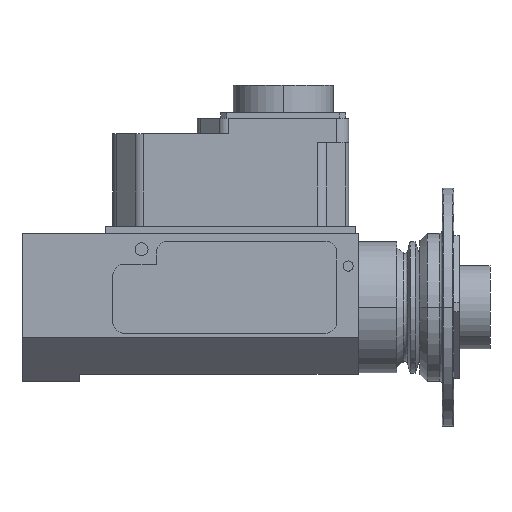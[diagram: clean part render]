
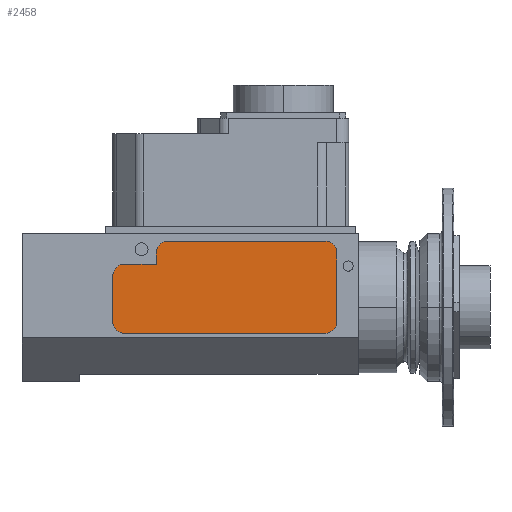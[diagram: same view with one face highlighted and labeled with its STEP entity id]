
A CAD part, left-side view. The second image highlights one B-rep face of the part: STEP entity #2458.
In plain terms, the highlighted planar face has unit normal (-1, 0, 0).
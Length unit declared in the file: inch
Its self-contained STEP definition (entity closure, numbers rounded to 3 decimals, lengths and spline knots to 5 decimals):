
#90 = DIRECTION ( 'NONE',  ( -1., 0., 0. ) ) ;
#171 = CARTESIAN_POINT ( 'NONE',  ( -0.765, 3.5765, 0.327 ) ) ;
#178 = CARTESIAN_POINT ( 'NONE',  ( -0.765, 3.1175, 0.57 ) ) ;
#217 = DIRECTION ( 'NONE',  ( 0., 1., 0. ) ) ;
#391 = VERTEX_POINT ( 'NONE', #1857 ) ;
#617 = CARTESIAN_POINT ( 'NONE',  ( -0.765, 3.1175, 0.57 ) ) ;
#627 = DIRECTION ( 'NONE',  ( 0., 0., 1. ) ) ;
#706 = EDGE_CURVE ( 'NONE', #7108, #4010, #2153, .T. ) ;
#718 = CARTESIAN_POINT ( 'NONE',  ( -0.765, 3.1175, 0.452 ) ) ;
#817 = VERTEX_POINT ( 'NONE', #171 ) ;
#898 = CIRCLE ( 'NONE', #3026, 0.125 ) ;
#939 = DIRECTION ( 'NONE',  ( 0., 1., 0. ) ) ;
#954 = DIRECTION ( 'NONE',  ( -1., 0., 0. ) ) ;
#967 = EDGE_CURVE ( 'NONE', #4280, #3059, #2065, .T. ) ;
#1066 = DIRECTION ( 'NONE',  ( 0., 1., 0. ) ) ;
#1072 = CARTESIAN_POINT ( 'NONE',  ( -0.765, 1.3505, 0.695 ) ) ;
#1194 = DIRECTION ( 'NONE',  ( 0., 1., 0. ) ) ;
#1291 = CARTESIAN_POINT ( 'NONE',  ( -0.765, 3.4515, -0.146 ) ) ;
#1433 = ORIENTED_EDGE ( 'NONE', *, *, #7035, .T. ) ;
#1449 = DIRECTION ( 'NONE',  ( 0., -1., 0. ) ) ;
#1526 = AXIS2_PLACEMENT_3D ( 'NONE', #1291, #4009, #217 ) ;
#1704 = CARTESIAN_POINT ( 'NONE',  ( -0.765, 2.9925, 0.57 ) ) ;
#1753 = DIRECTION ( 'NONE',  ( 0., 1., 0. ) ) ;
#1772 = AXIS2_PLACEMENT_3D ( 'NONE', #2099, #954, #4273 ) ;
#1857 = CARTESIAN_POINT ( 'NONE',  ( -0.765, 1.2255, -0.146 ) ) ;
#2004 = ORIENTED_EDGE ( 'NONE', *, *, #6833, .T. ) ;
#2065 = CIRCLE ( 'NONE', #1526, 0.125 ) ;
#2099 = CARTESIAN_POINT ( 'NONE',  ( -0.765, 1.3505, -0.146 ) ) ;
#2104 = VERTEX_POINT ( 'NONE', #4565 ) ;
#2147 = LINE ( 'NONE', #5224, #6434 ) ;
#2153 = CIRCLE ( 'NONE', #4183, 0.125 ) ;
#2206 = CARTESIAN_POINT ( 'NONE',  ( -0.765, 3.4515, 0.452 ) ) ;
#2260 = VERTEX_POINT ( 'NONE', #2206 ) ;
#2274 = VERTEX_POINT ( 'NONE', #3791 ) ;
#2281 = VECTOR ( 'NONE', #2634, 39.37008 ) ;
#2372 = LINE ( 'NONE', #1072, #2281 ) ;
#2458 = ADVANCED_FACE ( 'NONE', ( #3932 ), #3022, .F. ) ;
#2634 = DIRECTION ( 'NONE',  ( 0., 1., 0. ) ) ;
#2718 = LINE ( 'NONE', #6694, #5947 ) ;
#2897 = ORIENTED_EDGE ( 'NONE', *, *, #4513, .T. ) ;
#3022 = PLANE ( 'NONE',  #4294 ) ;
#3026 = AXIS2_PLACEMENT_3D ( 'NONE', #7017, #6394, #939 ) ;
#3059 = VERTEX_POINT ( 'NONE', #6144 ) ;
#3134 = EDGE_CURVE ( 'NONE', #3059, #4691, #5192, .T. ) ;
#3305 = ORIENTED_EDGE ( 'NONE', *, *, #3134, .T. ) ;
#3455 = EDGE_CURVE ( 'NONE', #391, #5578, #2718, .T. ) ;
#3627 = ORIENTED_EDGE ( 'NONE', *, *, #967, .T. ) ;
#3633 = DIRECTION ( 'NONE',  ( 0., 0., -1. ) ) ;
#3776 = DIRECTION ( 'NONE',  ( 0., 1., 0. ) ) ;
#3791 = CARTESIAN_POINT ( 'NONE',  ( -0.765, 3.1175, 0.452 ) ) ;
#3846 = EDGE_CURVE ( 'NONE', #2104, #7108, #2372, .T. ) ;
#3926 = VECTOR ( 'NONE', #1449, 39.37008 ) ;
#3932 = FACE_OUTER_BOUND ( 'NONE', #4347, .T. ) ;
#4009 = DIRECTION ( 'NONE',  ( -1., 0., 0. ) ) ;
#4010 = VERTEX_POINT ( 'NONE', #617 ) ;
#4183 = AXIS2_PLACEMENT_3D ( 'NONE', #1704, #90, #1194 ) ;
#4238 = LINE ( 'NONE', #178, #5398 ) ;
#4273 = DIRECTION ( 'NONE',  ( 0., 1., 0. ) ) ;
#4280 = VERTEX_POINT ( 'NONE', #6989 ) ;
#4294 = AXIS2_PLACEMENT_3D ( 'NONE', #6292, #5153, #3776 ) ;
#4347 = EDGE_LOOP ( 'NONE', ( #5668, #2897, #4370, #2004, #3627, #3305, #6958, #6563, #1433, #6078, #5843 ) ) ;
#4370 = ORIENTED_EDGE ( 'NONE', *, *, #4754, .T. ) ;
#4513 = EDGE_CURVE ( 'NONE', #2274, #2260, #5504, .T. ) ;
#4550 = CIRCLE ( 'NONE', #5563, 0.125 ) ;
#4565 = CARTESIAN_POINT ( 'NONE',  ( -0.765, 1.3505, 0.695 ) ) ;
#4691 = VERTEX_POINT ( 'NONE', #6342 ) ;
#4754 = EDGE_CURVE ( 'NONE', #2260, #817, #898, .T. ) ;
#5153 = DIRECTION ( 'NONE',  ( 1., 0., 0. ) ) ;
#5192 = LINE ( 'NONE', #6328, #3926 ) ;
#5224 = CARTESIAN_POINT ( 'NONE',  ( -0.765, 3.5765, 0.327 ) ) ;
#5333 = EDGE_CURVE ( 'NONE', #4691, #391, #6088, .T. ) ;
#5398 = VECTOR ( 'NONE', #3633, 39.37008 ) ;
#5504 = LINE ( 'NONE', #718, #5681 ) ;
#5563 = AXIS2_PLACEMENT_3D ( 'NONE', #6493, #6562, #1066 ) ;
#5578 = VERTEX_POINT ( 'NONE', #5593 ) ;
#5593 = CARTESIAN_POINT ( 'NONE',  ( -0.765, 1.2255, 0.57 ) ) ;
#5647 = EDGE_CURVE ( 'NONE', #4010, #2274, #4238, .T. ) ;
#5668 = ORIENTED_EDGE ( 'NONE', *, *, #5647, .T. ) ;
#5681 = VECTOR ( 'NONE', #1753, 39.37008 ) ;
#5726 = DIRECTION ( 'NONE',  ( 0., 0., -1. ) ) ;
#5843 = ORIENTED_EDGE ( 'NONE', *, *, #706, .T. ) ;
#5947 = VECTOR ( 'NONE', #627, 39.37008 ) ;
#6078 = ORIENTED_EDGE ( 'NONE', *, *, #3846, .T. ) ;
#6088 = CIRCLE ( 'NONE', #1772, 0.125 ) ;
#6144 = CARTESIAN_POINT ( 'NONE',  ( -0.765, 3.4515, -0.271 ) ) ;
#6292 = CARTESIAN_POINT ( 'NONE',  ( -0.765, -1.10888, 0.765 ) ) ;
#6328 = CARTESIAN_POINT ( 'NONE',  ( -0.765, 1.3505, -0.271 ) ) ;
#6342 = CARTESIAN_POINT ( 'NONE',  ( -0.765, 1.3505, -0.271 ) ) ;
#6394 = DIRECTION ( 'NONE',  ( -1., 0., 0. ) ) ;
#6434 = VECTOR ( 'NONE', #5726, 39.37008 ) ;
#6493 = CARTESIAN_POINT ( 'NONE',  ( -0.765, 1.3505, 0.57 ) ) ;
#6562 = DIRECTION ( 'NONE',  ( -1., 0., 0. ) ) ;
#6563 = ORIENTED_EDGE ( 'NONE', *, *, #3455, .T. ) ;
#6694 = CARTESIAN_POINT ( 'NONE',  ( -0.765, 1.2255, 0.57 ) ) ;
#6833 = EDGE_CURVE ( 'NONE', #817, #4280, #2147, .T. ) ;
#6958 = ORIENTED_EDGE ( 'NONE', *, *, #5333, .T. ) ;
#6989 = CARTESIAN_POINT ( 'NONE',  ( -0.765, 3.5765, -0.146 ) ) ;
#7017 = CARTESIAN_POINT ( 'NONE',  ( -0.765, 3.4515, 0.327 ) ) ;
#7032 = CARTESIAN_POINT ( 'NONE',  ( -0.765, 2.9925, 0.695 ) ) ;
#7035 = EDGE_CURVE ( 'NONE', #5578, #2104, #4550, .T. ) ;
#7108 = VERTEX_POINT ( 'NONE', #7032 ) ;
